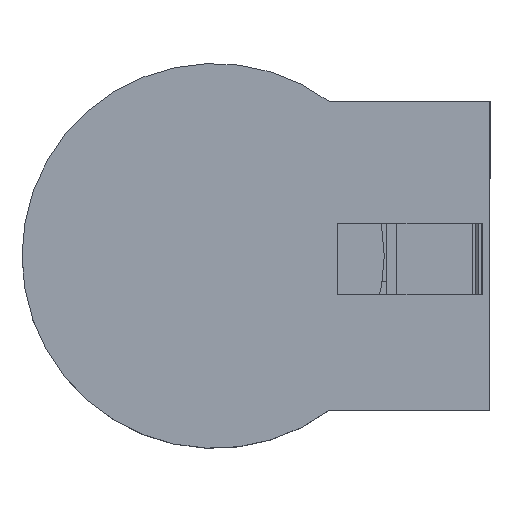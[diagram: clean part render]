
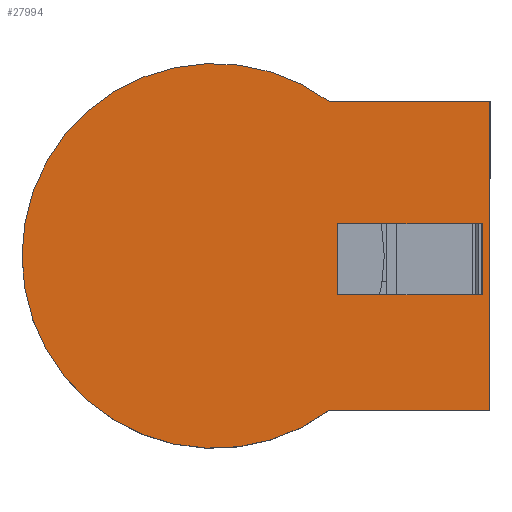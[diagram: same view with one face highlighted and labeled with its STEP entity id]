
A CAD part, top view. The second image highlights one B-rep face of the part: STEP entity #27994.
In plain terms, the highlighted planar face has unit normal (0, 0, 1) as drawn and (0, 0, -1) by its records, which use the part's own axes.
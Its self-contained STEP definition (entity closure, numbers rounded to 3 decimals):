
#3026=LINE('',#54686,#4840);
#3027=LINE('',#54689,#4841);
#3028=LINE('',#54693,#4842);
#3029=LINE('',#54694,#4843);
#3030=LINE('',#54697,#4844);
#3031=LINE('',#54699,#4845);
#3032=LINE('',#54701,#4846);
#4840=VECTOR('',#37404,1000.);
#4841=VECTOR('',#37405,1000.);
#4842=VECTOR('',#37408,1000.);
#4843=VECTOR('',#37409,1000.);
#4844=VECTOR('',#37410,1000.);
#4845=VECTOR('',#37411,1000.);
#4846=VECTOR('',#37412,1000.);
#11612=ORIENTED_EDGE('',*,*,#15409,.T.);
#11613=ORIENTED_EDGE('',*,*,#15410,.T.);
#11614=ORIENTED_EDGE('',*,*,#15411,.T.);
#11615=ORIENTED_EDGE('',*,*,#15412,.T.);
#11616=ORIENTED_EDGE('',*,*,#15413,.T.);
#11617=ORIENTED_EDGE('',*,*,#15414,.T.);
#11618=ORIENTED_EDGE('',*,*,#15415,.T.);
#11619=ORIENTED_EDGE('',*,*,#15416,.T.);
#15409=EDGE_CURVE('',#17954,#17955,#3026,.T.);
#15410=EDGE_CURVE('',#17955,#17956,#3027,.T.);
#15411=EDGE_CURVE('',#17956,#17957,#19366,.T.);
#15412=EDGE_CURVE('',#17957,#17954,#3028,.T.);
#15413=EDGE_CURVE('',#17958,#17959,#3029,.T.);
#15414=EDGE_CURVE('',#17959,#17960,#3030,.T.);
#15415=EDGE_CURVE('',#17960,#17961,#3031,.T.);
#15416=EDGE_CURVE('',#17961,#17958,#3032,.T.);
#17954=VERTEX_POINT('',#54687);
#17955=VERTEX_POINT('',#54688);
#17956=VERTEX_POINT('',#54690);
#17957=VERTEX_POINT('',#54692);
#17958=VERTEX_POINT('',#54695);
#17959=VERTEX_POINT('',#54696);
#17960=VERTEX_POINT('',#54698);
#17961=VERTEX_POINT('',#54700);
#19366=CIRCLE('',#30630,80.486);
#20910=EDGE_LOOP('',(#11612,#11613,#11614,#11615));
#20911=EDGE_LOOP('',(#11616,#11617,#11618,#11619));
#22550=FACE_BOUND('',#20910,.T.);
#22551=FACE_BOUND('',#20911,.T.);
#23191=PLANE('',#30629);
#27994=ADVANCED_FACE('',(#22550,#22551),#23191,.T.);
#30629=AXIS2_PLACEMENT_3D('',#54685,#37402,#37403);
#30630=AXIS2_PLACEMENT_3D('',#54691,#37406,#37407);
#37402=DIRECTION('',(0.,0.,-1.));
#37403=DIRECTION('',(-1.,0.,0.));
#37404=DIRECTION('',(-1.,0.,0.));
#37405=DIRECTION('',(0.,1.,0.));
#37406=DIRECTION('',(0.,0.,-1.));
#37407=DIRECTION('',(0.,-1.,0.));
#37408=DIRECTION('',(0.,-1.,0.));
#37409=DIRECTION('',(-1.,0.,0.));
#37410=DIRECTION('',(0.,-1.,0.));
#37411=DIRECTION('',(1.,0.,0.));
#37412=DIRECTION('',(0.,1.,0.));
#54685=CARTESIAN_POINT('',(89.532,154.434,-40.64));
#54686=CARTESIAN_POINT('',(154.225,39.154,-40.64));
#54687=CARTESIAN_POINT('',(154.225,39.154,-40.64));
#54688=CARTESIAN_POINT('',(24.935,39.154,-40.64));
#54689=CARTESIAN_POINT('',(24.935,39.154,-40.64));
#54690=CARTESIAN_POINT('',(24.935,106.422,-40.64));
#54691=CARTESIAN_POINT('',(89.532,154.434,-40.64));
#54692=CARTESIAN_POINT('',(154.225,106.552,-40.64));
#54693=CARTESIAN_POINT('',(154.225,106.422,-40.64));
#54694=CARTESIAN_POINT('',(89.532,102.839,-40.64));
#54695=CARTESIAN_POINT('',(105.876,102.839,-40.64));
#54696=CARTESIAN_POINT('',(75.972,102.839,-40.64));
#54697=CARTESIAN_POINT('',(75.972,154.434,-40.64));
#54698=CARTESIAN_POINT('',(75.972,42.387,-40.64));
#54699=CARTESIAN_POINT('',(89.532,42.387,-40.64));
#54700=CARTESIAN_POINT('',(105.876,42.387,-40.64));
#54701=CARTESIAN_POINT('',(105.876,154.434,-40.64));
